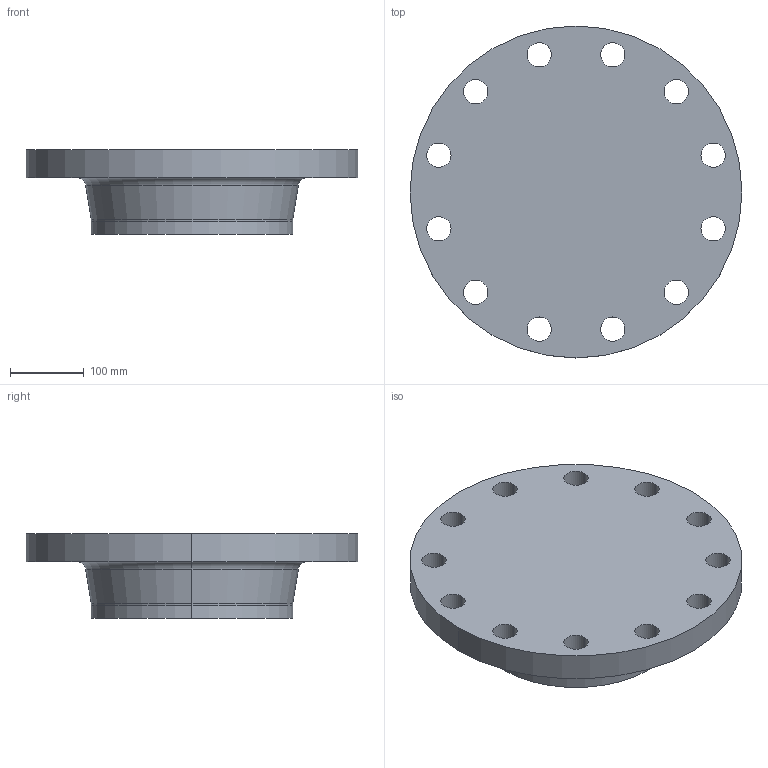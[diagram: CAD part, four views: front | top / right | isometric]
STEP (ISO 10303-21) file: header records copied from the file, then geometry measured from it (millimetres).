
FILE_DESCRIPTION (( 'STEP AP214' ), '1' );
FILE_NAME ('PN40 DN250 Type 21(ii) - Type A Face.STEP', '2019-01-05T15:51:16', ( '' ), ( '' ), 'SwSTEP 2.0', 'SolidWorks 2019', '' );
FILE_SCHEMA (( 'AUTOMOTIVE_DESIGN' ));
Length unit declared in the file: millimetre
Products named in the file (1): PN40 DN250 Type 21(ii) - Type A Face
Bounding box: 450 x 450 x 115 mm (x, y, z)
Volume: 10416244 mm3; surface area: 455541.6 mm2
Topology: 1 solids, 1 shells, 37 faces, 96 edges, 62 vertices
Faces by surface type: cylinder 28, torus 4, plane 3, cone 2
Entity records: 1250 total; most frequent: DIRECTION 238, CARTESIAN_POINT 196, ORIENTED_EDGE 192, AXIS2_PLACEMENT_3D 104, EDGE_CURVE 96, CIRCLE 66, EDGE_LOOP 62, VERTEX_POINT 62
